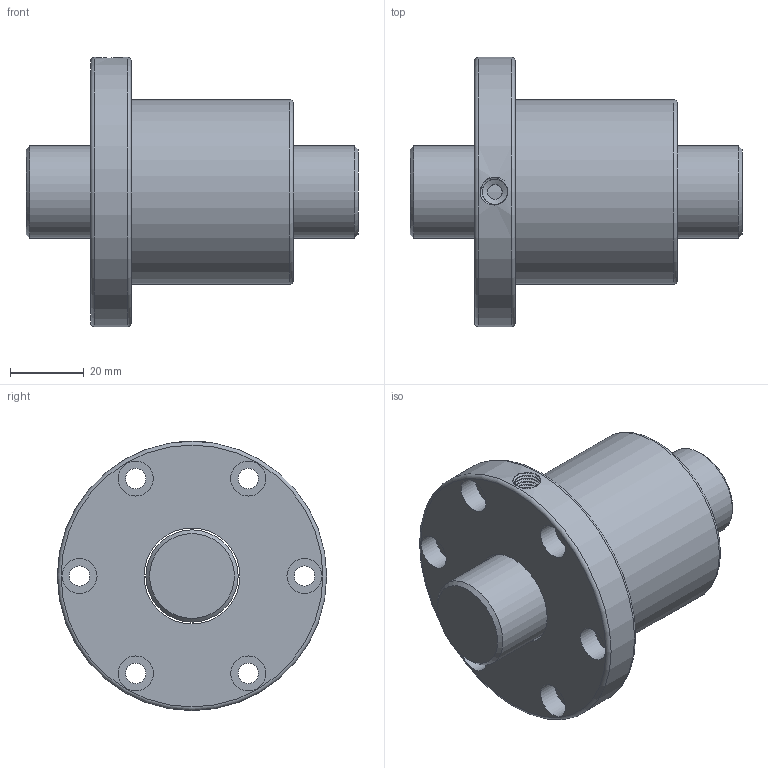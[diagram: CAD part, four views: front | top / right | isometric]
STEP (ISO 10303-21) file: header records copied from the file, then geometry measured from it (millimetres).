
FILE_DESCRIPTION (( 'STEP AP203' ), '1' );
FILE_NAME ('SFV02505-4.8.STEP', '2023-08-16T03:47:27', ( '' ), ( '' ), 'SwSTEP 2.0', 'SolidWorks 2022', '' );
FILE_SCHEMA (( 'CONFIG_CONTROL_DESIGN' ));
Length unit declared in the file: millimetre
Products named in the file (1): SFV02505-4.8
Bounding box: 90 x 73 x 73 mm (x, y, z)
Volume: 143551.4 mm3; surface area: 30636.7 mm2
Topology: 2 solids, 2 shells, 40 faces, 85 edges, 56 vertices
Faces by surface type: cylinder 20, plane 12, cone 3, torus 3, bspline 2
Full cylindrical faces by diameter (mm): 4 x1, 5.5 x6, 6.917 x1, 9.5 x6, 25 x1, 26 x1, 50 x1, 73 x1
Entity records: 2757 total; most frequent: CARTESIAN_POINT 1923, DIRECTION 162, ORIENTED_EDGE 106, EDGE_LOOP 87, AXIS2_PLACEMENT_3D 81, FACE_OUTER_BOUND 61, EDGE_CURVE 53, VERTEX_POINT 48
